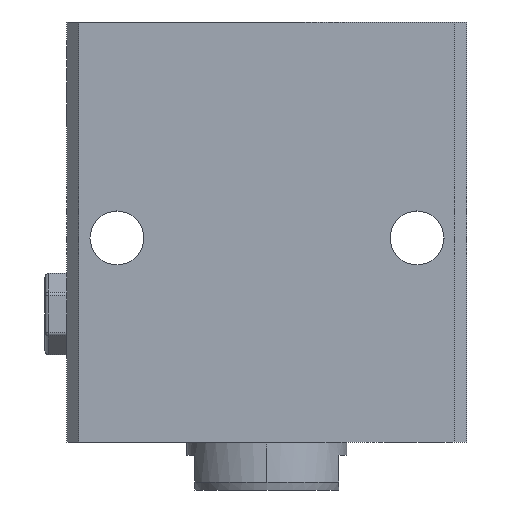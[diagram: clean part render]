
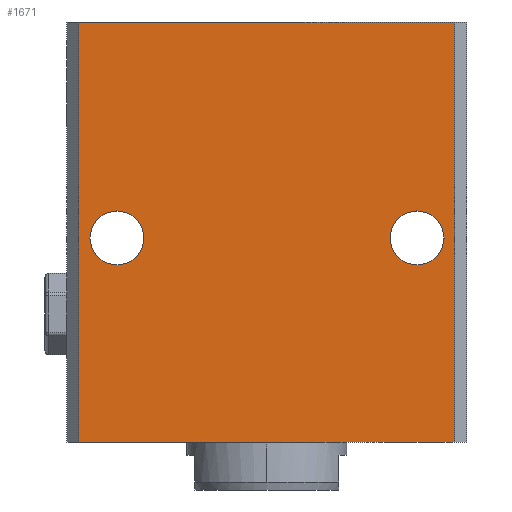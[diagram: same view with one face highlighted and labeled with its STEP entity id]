
A CAD part, left-side view. The second image highlights one B-rep face of the part: STEP entity #1671.
In plain terms, the highlighted planar face has unit normal (-1, 0, 0).
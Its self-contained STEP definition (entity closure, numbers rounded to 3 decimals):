
#68 = LINE ( 'NONE', #2672, #72 ) ;
#72 = VECTOR ( 'NONE', #2751, 1000. ) ;
#217 = CARTESIAN_POINT ( 'NONE',  ( -37.5, -47., 0. ) ) ;
#290 = PLANE ( 'NONE',  #2069 ) ;
#296 = AXIS2_PLACEMENT_3D ( 'NONE', #1816, #2076, #2145 ) ;
#418 = CARTESIAN_POINT ( 'NONE',  ( -37.5, 47., 105. ) ) ;
#444 = DIRECTION ( 'NONE',  ( 1., 0., 0. ) ) ;
#453 = DIRECTION ( 'NONE',  ( 0., -1., 0. ) ) ;
#458 = DIRECTION ( 'NONE',  ( 0., 1., 0. ) ) ;
#511 = DIRECTION ( 'NONE',  ( 0., 0., -1. ) ) ;
#565 = VERTEX_POINT ( 'NONE', #868 ) ;
#629 = VECTOR ( 'NONE', #453, 1000. ) ;
#775 = VERTEX_POINT ( 'NONE', #1491 ) ;
#814 = EDGE_CURVE ( 'NONE', #988, #775, #2099, .T. ) ;
#868 = CARTESIAN_POINT ( 'NONE',  ( -37.5, -44.25, 51. ) ) ;
#890 = CARTESIAN_POINT ( 'NONE',  ( -37.5, -47., 105. ) ) ;
#928 = EDGE_CURVE ( 'NONE', #775, #988, #2255, .T. ) ;
#988 = VERTEX_POINT ( 'NONE', #1193 ) ;
#1036 = CIRCLE ( 'NONE', #296, 6.75 ) ;
#1088 = VERTEX_POINT ( 'NONE', #2895 ) ;
#1191 = VECTOR ( 'NONE', #511, 1000. ) ;
#1193 = CARTESIAN_POINT ( 'NONE',  ( -37.5, 44.25, 51. ) ) ;
#1212 = AXIS2_PLACEMENT_3D ( 'NONE', #1551, #1565, #1607 ) ;
#1253 = VERTEX_POINT ( 'NONE', #2437 ) ;
#1274 = CIRCLE ( 'NONE', #1212, 6.75 ) ;
#1316 = FACE_BOUND ( 'NONE', #2147, .T. ) ;
#1344 = FACE_BOUND ( 'NONE', #1791, .T. ) ;
#1448 = CARTESIAN_POINT ( 'NONE',  ( -37.5, 47., 105. ) ) ;
#1469 = AXIS2_PLACEMENT_3D ( 'NONE', #1652, #1742, #1790 ) ;
#1491 = CARTESIAN_POINT ( 'NONE',  ( -37.5, 30.75, 51. ) ) ;
#1551 = CARTESIAN_POINT ( 'NONE',  ( -37.5, -37.5, 51. ) ) ;
#1565 = DIRECTION ( 'NONE',  ( 1., 0., 0. ) ) ;
#1596 = LINE ( 'NONE', #3002, #1191 ) ;
#1601 = EDGE_CURVE ( 'NONE', #565, #2636, #1036, .T. ) ;
#1607 = DIRECTION ( 'NONE',  ( 0., 1., 0. ) ) ;
#1620 = VERTEX_POINT ( 'NONE', #890 ) ;
#1627 = VERTEX_POINT ( 'NONE', #217 ) ;
#1652 = CARTESIAN_POINT ( 'NONE',  ( -37.5, 37.5, 51. ) ) ;
#1671 = ADVANCED_FACE ( 'NONE', ( #1316, #1344, #1941 ), #290, .F. ) ;
#1692 = AXIS2_PLACEMENT_3D ( 'NONE', #1830, #1952, #2011 ) ;
#1742 = DIRECTION ( 'NONE',  ( 1., 0., 0. ) ) ;
#1785 = EDGE_CURVE ( 'NONE', #2636, #565, #1274, .T. ) ;
#1790 = DIRECTION ( 'NONE',  ( 0., 1., 0. ) ) ;
#1791 = EDGE_LOOP ( 'NONE', ( #2774, #2752 ) ) ;
#1816 = CARTESIAN_POINT ( 'NONE',  ( -37.5, -37.5, 51. ) ) ;
#1830 = CARTESIAN_POINT ( 'NONE',  ( -37.5, 37.5, 51. ) ) ;
#1848 = EDGE_CURVE ( 'NONE', #1088, #1627, #2351, .T. ) ;
#1854 = CARTESIAN_POINT ( 'NONE',  ( -37.5, 47., 0. ) ) ;
#1940 = DIRECTION ( 'NONE',  ( 0., -1., 0. ) ) ;
#1941 = FACE_OUTER_BOUND ( 'NONE', #2098, .T. ) ;
#1952 = DIRECTION ( 'NONE',  ( 1., 0., 0. ) ) ;
#1981 = EDGE_CURVE ( 'NONE', #1253, #1088, #68, .T. ) ;
#2011 = DIRECTION ( 'NONE',  ( 0., 1., 0. ) ) ;
#2069 = AXIS2_PLACEMENT_3D ( 'NONE', #418, #444, #458 ) ;
#2076 = DIRECTION ( 'NONE',  ( 1., 0., 0. ) ) ;
#2098 = EDGE_LOOP ( 'NONE', ( #2976, #2710, #2680, #2671 ) ) ;
#2099 = CIRCLE ( 'NONE', #1692, 6.75 ) ;
#2145 = DIRECTION ( 'NONE',  ( 0., 1., 0. ) ) ;
#2147 = EDGE_LOOP ( 'NONE', ( #2643, #2605 ) ) ;
#2255 = CIRCLE ( 'NONE', #1469, 6.75 ) ;
#2345 = EDGE_CURVE ( 'NONE', #1620, #1627, #1596, .T. ) ;
#2351 = LINE ( 'NONE', #1854, #2443 ) ;
#2437 = CARTESIAN_POINT ( 'NONE',  ( -37.5, 47., 105. ) ) ;
#2443 = VECTOR ( 'NONE', #1940, 1000. ) ;
#2546 = EDGE_CURVE ( 'NONE', #1253, #1620, #2943, .T. ) ;
#2605 = ORIENTED_EDGE ( 'NONE', *, *, #1601, .T. ) ;
#2636 = VERTEX_POINT ( 'NONE', #2847 ) ;
#2643 = ORIENTED_EDGE ( 'NONE', *, *, #1785, .T. ) ;
#2671 = ORIENTED_EDGE ( 'NONE', *, *, #1981, .T. ) ;
#2672 = CARTESIAN_POINT ( 'NONE',  ( -37.5, 47., 105. ) ) ;
#2680 = ORIENTED_EDGE ( 'NONE', *, *, #2546, .F. ) ;
#2710 = ORIENTED_EDGE ( 'NONE', *, *, #2345, .F. ) ;
#2751 = DIRECTION ( 'NONE',  ( 0., 0., -1. ) ) ;
#2752 = ORIENTED_EDGE ( 'NONE', *, *, #928, .T. ) ;
#2774 = ORIENTED_EDGE ( 'NONE', *, *, #814, .T. ) ;
#2847 = CARTESIAN_POINT ( 'NONE',  ( -37.5, -30.75, 51. ) ) ;
#2895 = CARTESIAN_POINT ( 'NONE',  ( -37.5, 47., 0. ) ) ;
#2943 = LINE ( 'NONE', #1448, #629 ) ;
#2976 = ORIENTED_EDGE ( 'NONE', *, *, #1848, .T. ) ;
#3002 = CARTESIAN_POINT ( 'NONE',  ( -37.5, -47., 105. ) ) ;
